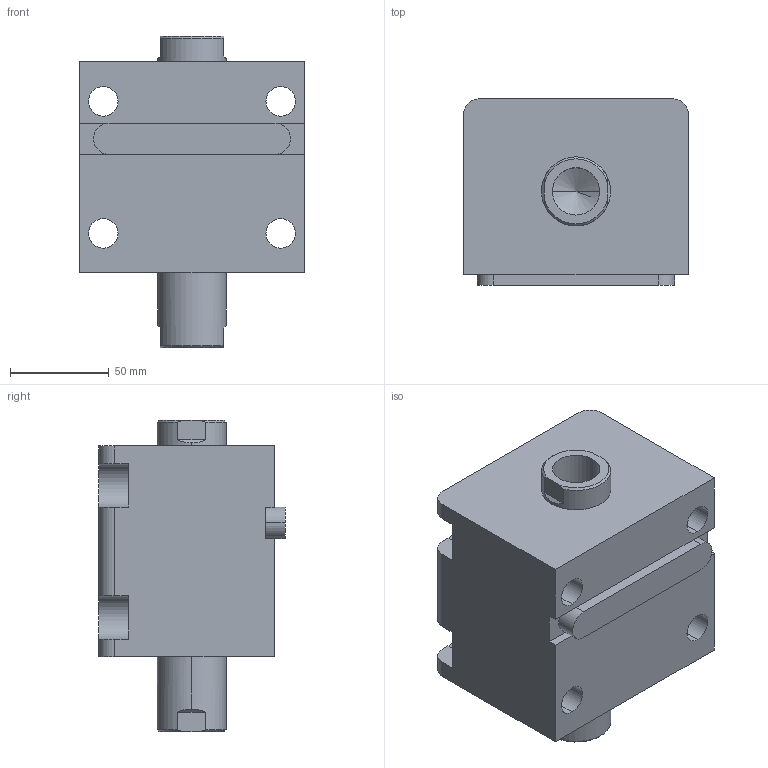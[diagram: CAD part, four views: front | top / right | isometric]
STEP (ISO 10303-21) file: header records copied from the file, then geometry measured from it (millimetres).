
FILE_DESCRIPTION (( 'STEP AP203' ), '1' );
FILE_NAME ('HTB-LW63-25N.STEP', '2019-10-09T08:24:32', ( '微软用户' ), ( '微软中国' ), 'SwSTEP 2.0', 'SolidWorks 2012', '' );
FILE_SCHEMA (( 'CONFIG_CONTROL_DESIGN' ));
Length unit declared in the file: millimetre
Products named in the file (4): HTB-LW63-25N; HTB-LA63-瑩; HTB-LW63-25N活塞杆; HTB-LW63-25掛极
Assembly tree (3 placements, depth 2):
  HTB-LW63-25N
    HTB-LW63-25掛极
    HTB-LW63-25N活塞杆
    HTB-LA63-瑩
Bounding box: 114 x 94.5 x 158 mm (x, y, z)
Volume: 966830.9 mm3; surface area: 133852.5 mm2
Topology: 3 solids, 3 shells, 101 faces, 253 edges, 164 vertices
Faces by surface type: plane 44, cylinder 41, cone 12, torus 4
Entity records: 3467 total; most frequent: CARTESIAN_POINT 576, DIRECTION 549, ORIENTED_EDGE 498, EDGE_CURVE 249, AXIS2_PLACEMENT_3D 209, VERTEX_POINT 164, VECTOR 131, LINE 131
